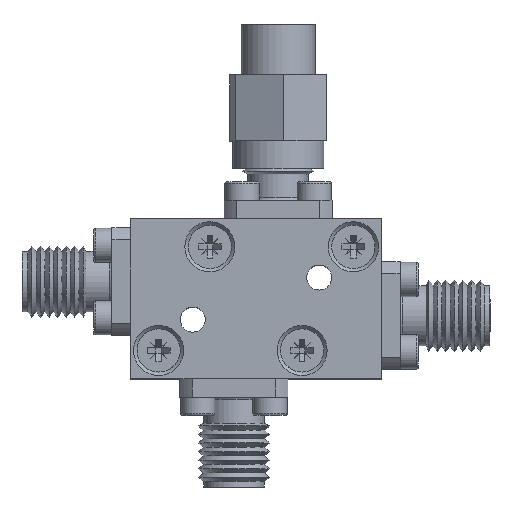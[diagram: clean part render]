
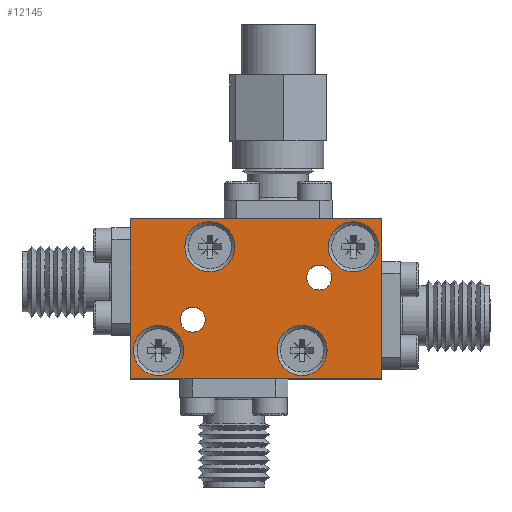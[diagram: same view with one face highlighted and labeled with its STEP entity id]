
A CAD part, top view. The second image highlights one B-rep face of the part: STEP entity #12145.
In plain terms, the highlighted planar face has unit normal (0, 0, 1).
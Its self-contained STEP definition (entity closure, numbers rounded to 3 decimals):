
#117=LINE('',#16142,#745);
#118=LINE('',#16150,#746);
#119=LINE('',#16152,#747);
#120=LINE('',#16159,#748);
#121=LINE('',#16161,#749);
#122=LINE('',#16163,#750);
#745=VECTOR('',#13696,1000.);
#746=VECTOR('',#13697,1000.);
#747=VECTOR('',#13698,1000.);
#748=VECTOR('',#13699,1000.);
#749=VECTOR('',#13700,1000.);
#750=VECTOR('',#13701,1000.);
#1373=PLANE('',#12780);
#1730=B_SPLINE_CURVE_WITH_KNOTS('',3,(#16145,#16146,#16147,#16148),
 .UNSPECIFIED.,.F.,.F.,(4,4),(0.,1.),.UNSPECIFIED.);
#1731=B_SPLINE_CURVE_WITH_KNOTS('',3,(#16154,#16155,#16156,#16157),
 .UNSPECIFIED.,.F.,.F.,(4,4),(0.,1.),.UNSPECIFIED.);
#1955=ORIENTED_EDGE('',*,*,#4049,.T.);
#1956=ORIENTED_EDGE('',*,*,#4050,.F.);
#1957=ORIENTED_EDGE('',*,*,#4051,.T.);
#1958=ORIENTED_EDGE('',*,*,#4052,.T.);
#1959=ORIENTED_EDGE('',*,*,#4053,.F.);
#1960=ORIENTED_EDGE('',*,*,#4054,.T.);
#1961=ORIENTED_EDGE('',*,*,#4055,.T.);
#1962=ORIENTED_EDGE('',*,*,#4056,.T.);
#1963=ORIENTED_EDGE('',*,*,#4042,.T.);
#1964=ORIENTED_EDGE('',*,*,#4040,.T.);
#1965=ORIENTED_EDGE('',*,*,#4038,.T.);
#1966=ORIENTED_EDGE('',*,*,#4036,.T.);
#1967=ORIENTED_EDGE('',*,*,#4046,.F.);
#1968=ORIENTED_EDGE('',*,*,#4043,.F.);
#4036=EDGE_CURVE('',#5083,#5083,#5904,.T.);
#4038=EDGE_CURVE('',#5085,#5085,#5906,.T.);
#4040=EDGE_CURVE('',#5087,#5087,#5908,.T.);
#4042=EDGE_CURVE('',#5089,#5089,#5910,.T.);
#4043=EDGE_CURVE('',#5090,#5090,#5911,.T.);
#4046=EDGE_CURVE('',#5093,#5093,#5912,.T.);
#4049=EDGE_CURVE('',#5096,#5097,#117,.T.);
#4050=EDGE_CURVE('',#5098,#5097,#1730,.F.);
#4051=EDGE_CURVE('',#5098,#5099,#118,.T.);
#4052=EDGE_CURVE('',#5099,#5100,#119,.T.);
#4053=EDGE_CURVE('',#5101,#5100,#1731,.F.);
#4054=EDGE_CURVE('',#5101,#5102,#120,.T.);
#4055=EDGE_CURVE('',#5102,#5103,#121,.T.);
#4056=EDGE_CURVE('',#5103,#5096,#122,.T.);
#5083=VERTEX_POINT('',#16087);
#5085=VERTEX_POINT('',#16092);
#5087=VERTEX_POINT('',#16097);
#5089=VERTEX_POINT('',#16102);
#5090=VERTEX_POINT('',#16105);
#5093=VERTEX_POINT('',#16124);
#5096=VERTEX_POINT('',#16143);
#5097=VERTEX_POINT('',#16144);
#5098=VERTEX_POINT('',#16149);
#5099=VERTEX_POINT('',#16151);
#5100=VERTEX_POINT('',#16153);
#5101=VERTEX_POINT('',#16158);
#5102=VERTEX_POINT('',#16160);
#5103=VERTEX_POINT('',#16162);
#5904=CIRCLE('',#12766,2.2);
#5906=CIRCLE('',#12769,2.2);
#5908=CIRCLE('',#12772,2.2);
#5910=CIRCLE('',#12775,2.2);
#5911=CIRCLE('',#12777,1.1);
#5912=CIRCLE('',#12779,1.1);
#6232=EDGE_LOOP('',(#1955,#1956,#1957,#1958,#1959,#1960,#1961,#1962));
#6233=EDGE_LOOP('',(#1963));
#6234=EDGE_LOOP('',(#1964));
#6235=EDGE_LOOP('',(#1965));
#6236=EDGE_LOOP('',(#1966));
#6237=EDGE_LOOP('',(#1967));
#6238=EDGE_LOOP('',(#1968));
#7100=FACE_BOUND('',#6232,.T.);
#7101=FACE_BOUND('',#6233,.T.);
#7102=FACE_BOUND('',#6234,.T.);
#7103=FACE_BOUND('',#6235,.T.);
#7104=FACE_BOUND('',#6236,.T.);
#7105=FACE_BOUND('',#6237,.T.);
#7106=FACE_BOUND('',#6238,.T.);
#12145=ADVANCED_FACE('',(#7100,#7101,#7102,#7103,#7104,#7105,#7106),#1373,
 .T.);
#12766=AXIS2_PLACEMENT_3D('',#16086,#13666,#13667);
#12769=AXIS2_PLACEMENT_3D('',#16091,#13672,#13673);
#12772=AXIS2_PLACEMENT_3D('',#16096,#13678,#13679);
#12775=AXIS2_PLACEMENT_3D('',#16101,#13684,#13685);
#12777=AXIS2_PLACEMENT_3D('',#16104,#13688,#13689);
#12779=AXIS2_PLACEMENT_3D('',#16123,#13692,#13693);
#12780=AXIS2_PLACEMENT_3D('',#16141,#13694,#13695);
#13666=DIRECTION('',(0.,0.,-1.));
#13667=DIRECTION('',(0.,1.,0.));
#13672=DIRECTION('',(0.,0.,-1.));
#13673=DIRECTION('',(0.,1.,0.));
#13678=DIRECTION('',(0.,0.,-1.));
#13679=DIRECTION('',(0.,1.,0.));
#13684=DIRECTION('',(0.,0.,-1.));
#13685=DIRECTION('',(0.,1.,0.));
#13688=DIRECTION('',(0.,0.,1.));
#13689=DIRECTION('',(1.,0.,0.));
#13692=DIRECTION('',(0.,0.,1.));
#13693=DIRECTION('',(1.,0.,0.));
#13694=DIRECTION('',(0.,0.,1.));
#13695=DIRECTION('',(1.,0.,0.));
#13696=DIRECTION('',(0.,-1.,0.));
#13697=DIRECTION('',(0.,-1.,0.));
#13698=DIRECTION('',(1.,0.,0.));
#13699=DIRECTION('',(1.,0.,0.));
#13700=DIRECTION('',(0.,1.,0.));
#13701=DIRECTION('',(-1.,0.,0.));
#16086=CARTESIAN_POINT('',(-8.55,-4.55,4.));
#16087=CARTESIAN_POINT('',(-8.55,-2.35,4.));
#16091=CARTESIAN_POINT('',(4.05,-4.55,4.));
#16092=CARTESIAN_POINT('',(4.05,-2.35,4.));
#16096=CARTESIAN_POINT('',(8.55,4.55,4.));
#16097=CARTESIAN_POINT('',(8.55,6.75,4.));
#16101=CARTESIAN_POINT('',(-4.05,4.55,4.));
#16102=CARTESIAN_POINT('',(-4.05,6.75,4.));
#16104=CARTESIAN_POINT('',(5.55,1.851,4.));
#16105=CARTESIAN_POINT('',(6.65,1.851,4.));
#16123=CARTESIAN_POINT('',(-5.55,-1.848,4.));
#16124=CARTESIAN_POINT('',(-4.45,-1.848,4.));
#16141=CARTESIAN_POINT('',(0.,0.,4.));
#16142=CARTESIAN_POINT('',(-11.05,7.05,4.));
#16143=CARTESIAN_POINT('',(-11.05,7.05,4.));
#16144=CARTESIAN_POINT('',(-11.05,5.162,4.));
#16145=CARTESIAN_POINT('',(-11.05,5.162,4.));
#16146=CARTESIAN_POINT('',(-11.05,2.718,4.));
#16147=CARTESIAN_POINT('',(-11.05,0.274,4.));
#16148=CARTESIAN_POINT('',(-11.05,-2.17,4.));
#16149=CARTESIAN_POINT('',(-11.05,-2.17,4.));
#16150=CARTESIAN_POINT('',(-11.05,7.05,4.));
#16151=CARTESIAN_POINT('',(-11.05,-7.05,4.));
#16152=CARTESIAN_POINT('',(-11.05,-7.05,4.));
#16153=CARTESIAN_POINT('',(-5.609,-7.05,4.));
#16154=CARTESIAN_POINT('',(-5.609,-7.05,4.));
#16155=CARTESIAN_POINT('',(-3.165,-7.05,4.));
#16156=CARTESIAN_POINT('',(-0.722,-7.05,4.));
#16157=CARTESIAN_POINT('',(1.722,-7.05,4.));
#16158=CARTESIAN_POINT('',(1.722,-7.05,4.));
#16159=CARTESIAN_POINT('',(-11.05,-7.05,4.));
#16160=CARTESIAN_POINT('',(11.05,-7.05,4.));
#16161=CARTESIAN_POINT('',(11.05,-7.05,4.));
#16162=CARTESIAN_POINT('',(11.05,7.05,4.));
#16163=CARTESIAN_POINT('',(11.05,7.05,4.));
